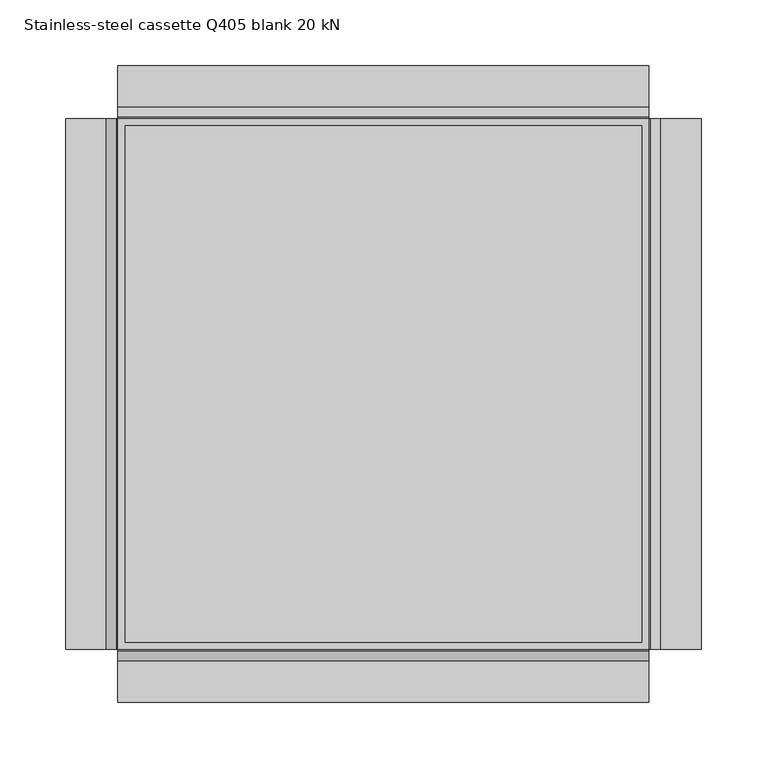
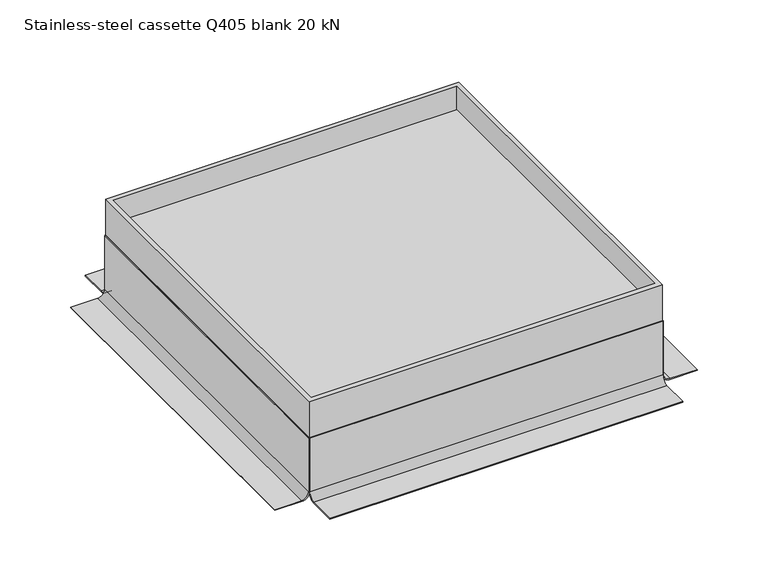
"""IFC4 building model written with IfcOpenShell, lengths in millimetres: proxy geometry, Electrical_Installation_Hager_VE-EE_EKSQ405BL-Heavy-duty-cassette-Q405-blank : Stainless-steel cassette Q405 blank 20 kN."""

from ifc_helpers import new_model, si_unit, point, frame, frame_2d, origin, place, context, project, spatial, polyline, circle_curve, trimmed, segment, composite_curve, outline, extrude, source, transform, mapped, element, save


def stainless_steel_cassette_q405_blank_20_kn_5d11f7c2(model_context):
    return source(origin(), model_context, "Body", "SweptSolid", [
        extrude(outline(polyline([(202.5, -202.5), (-202.5, -202.5), (-202.5, 202.5), (202.5, 202.5), (202.5, -202.5)]), holes=[polyline([(-197.0, 197.0), (-197.0, -197.0), (197.0, -197.0), (197.0, 197.0), (-197.0, 197.0)])]), frame((0.0, 0.0, -90.0), z_axis=(0.0, 0.0, 1.0), x_axis=(1.0, 0.0, 0.0)), (0.0, 0.0, 1.0), 48.0),
        extrude(outline(composite_curve([segment(polyline([(-42.0, -202.5), (-42.0, -203.5), (-107.0, -203.5)]), True, "CONTINUOUS"), segment(trimmed(circle_curve(frame_2d((-107.0, -211.5)), 8.0), [point((-107.0, -203.5))], [point((-115.0, -211.5))], True, "CARTESIAN"), True, "CONTINUOUS"), segment(polyline([(-115.0, -211.5), (-115.0, -242.5), (-116.0, -242.5), (-116.0, -210.5)]), True, "CONTINUOUS"), segment(trimmed(circle_curve(frame_2d((-108.0, -210.5)), 8.0), [point((-116.0, -210.5))], [point((-108.0, -202.5))], False, "CARTESIAN"), True, "CONTINUOUS"), segment(polyline([(-108.0, -202.5), (-42.0, -202.5)]), True, "CONTINUOUS")], self_intersect=False)), frame((0.0, -202.5, 0.0), z_axis=(0.0, 1.0, 0.0), x_axis=(0.0, 0.0, 1.0)), (0.0, 0.0, 1.0), 405.0),
        extrude(outline(composite_curve([segment(polyline([(-42.0, 202.5), (-108.0, 202.5)]), True, "CONTINUOUS"), segment(trimmed(circle_curve(frame_2d((-108.0, 210.5)), 8.0), [point((-108.0, 202.5))], [point((-116.0, 210.5))], False, "CARTESIAN"), True, "CONTINUOUS"), segment(polyline([(-116.0, 210.5), (-116.0, 242.5), (-115.0, 242.5), (-115.0, 211.5)]), True, "CONTINUOUS"), segment(trimmed(circle_curve(frame_2d((-107.0, 211.5)), 8.0), [point((-115.0, 211.5))], [point((-107.0, 203.5))], True, "CARTESIAN"), True, "CONTINUOUS"), segment(polyline([(-107.0, 203.5), (-42.0, 203.5), (-42.0, 202.5)]), True, "CONTINUOUS")], self_intersect=False)), frame((0.0, -202.5, 0.0), z_axis=(0.0, 1.0, 0.0), x_axis=(0.0, 0.0, 1.0)), (0.0, 0.0, 1.0), 405.0),
        extrude(outline(composite_curve([segment(polyline([(203.5, -42.0), (203.5, -107.0189708)]), True, "CONTINUOUS"), segment(trimmed(circle_curve(frame_2d((211.4810292, -107.0189708)), 7.9810292), [point((203.5, -107.0189708))], [point((211.4810292, -115.0))], True, "CARTESIAN"), True, "CONTINUOUS"), segment(polyline([(211.4810292, -115.0), (242.9, -115.0), (242.9, -116.0), (210.5, -116.0)]), True, "CONTINUOUS"), segment(trimmed(circle_curve(frame_2d((210.5, -108.0)), 8.0), [point((210.5, -116.0))], [point((202.5, -108.0))], False, "CARTESIAN"), True, "CONTINUOUS"), segment(polyline([(202.5, -108.0), (202.5, -42.0), (203.5, -42.0)]), True, "CONTINUOUS")], self_intersect=False)), frame((-202.5, 0.0, 0.0), z_axis=(1.0, 0.0, 0.0), x_axis=(0.0, 1.0, 0.0)), (0.0, 0.0, 1.0), 405.0),
        extrude(outline(composite_curve([segment(polyline([(-203.5, -42.0), (-202.5, -42.0), (-202.5, -108.0)]), True, "CONTINUOUS"), segment(trimmed(circle_curve(frame_2d((-210.5, -108.0)), 8.0), [point((-202.5, -108.0))], [point((-210.5, -116.0))], False, "CARTESIAN"), True, "CONTINUOUS"), segment(polyline([(-210.5, -116.0), (-242.9, -116.0), (-242.9, -115.0), (-211.5, -115.0)]), True, "CONTINUOUS"), segment(trimmed(circle_curve(frame_2d((-211.5, -107.0)), 8.0), [point((-211.5, -115.0))], [point((-203.5, -107.0))], True, "CARTESIAN"), True, "CONTINUOUS"), segment(polyline([(-203.5, -107.0), (-203.5, -42.0)]), True, "CONTINUOUS")], self_intersect=False)), frame((-202.5, 0.0, 0.0), z_axis=(1.0, 0.0, 0.0), x_axis=(0.0, 1.0, 0.0)), (0.0, 0.0, 1.0), 405.0),
        extrude(outline(composite_curve([segment(trimmed(circle_curve(frame_2d((-162.4091469, -182.4951203)), 7.0), [point((-169.4091469, -182.4951203))], [point((-155.4091469, -182.4951203))], False, "CARTESIAN"), True, "CONTINUOUS"), segment(trimmed(circle_curve(frame_2d((-162.4091469, -182.4951203)), 7.0), [point((-155.4091469, -182.4951203))], [point((-169.4091469, -182.4951203))], False, "CARTESIAN"), True, "CONTINUOUS")], self_intersect=False)), frame((0.0, 0.0, -116.0), z_axis=(0.0, 0.0, 1.0), x_axis=(1.0, 0.0, 0.0)), (0.0, 0.0, 1.0), 26.0),
        extrude(outline(composite_curve([segment(trimmed(circle_curve(frame_2d((182.5127006, -162.9445419)), 7.0), [point((175.5127006, -162.9445419))], [point((189.5127006, -162.9445419))], False, "CARTESIAN"), True, "CONTINUOUS"), segment(trimmed(circle_curve(frame_2d((182.5127006, -162.9445419)), 7.0), [point((189.5127006, -162.9445419))], [point((175.5127006, -162.9445419))], False, "CARTESIAN"), True, "CONTINUOUS")], self_intersect=False)), frame((0.0, 0.0, -116.0), z_axis=(0.0, 0.0, 1.0), x_axis=(1.0, 0.0, 0.0)), (0.0, 0.0, 1.0), 26.0),
        extrude(outline(composite_curve([segment(trimmed(circle_curve(frame_2d((162.4738351, 182.6924506)), 7.0), [point((155.4738351, 182.6924506))], [point((169.4738351, 182.6924506))], False, "CARTESIAN"), True, "CONTINUOUS"), segment(trimmed(circle_curve(frame_2d((162.4738351, 182.6924506)), 7.0), [point((169.4738351, 182.6924506))], [point((155.4738351, 182.6924506))], False, "CARTESIAN"), True, "CONTINUOUS")], self_intersect=False)), frame((0.0, 0.0, -116.0), z_axis=(0.0, 0.0, 1.0), x_axis=(1.0, 0.0, 0.0)), (0.0, 0.0, 1.0), 26.0),
        extrude(outline(composite_curve([segment(trimmed(circle_curve(frame_2d((-182.4092584, 163.1865669)), 7.0), [point((-189.4092584, 163.1865669))], [point((-175.4092584, 163.1865669))], False, "CARTESIAN"), True, "CONTINUOUS"), segment(trimmed(circle_curve(frame_2d((-182.4092584, 163.1865669)), 7.0), [point((-175.4092584, 163.1865669))], [point((-189.4092584, 163.1865669))], False, "CARTESIAN"), True, "CONTINUOUS")], self_intersect=False)), frame((0.0, 0.0, -116.0), z_axis=(0.0, 0.0, 1.0), x_axis=(1.0, 0.0, 0.0)), (0.0, 0.0, 1.0), 26.0),
        extrude(outline(polyline([(4.7, 116.5), (95.8639966, 116.5), (116.5, 99.5470649), (116.5, -98.6394213), (95.2984665, -116.5), (-96.367755, -116.5), (-116.5, -98.6801256), (-116.5, 101.043544), (-96.1272863, 116.5), (4.7, 116.5)]), holes=[polyline([(-113.5, 99.8642535), (-113.5, -97.634929), (-94.9180331, -113.5), (93.9123304, -113.5), (113.5, -97.5355815), (113.5, 98.4312235), (94.4906502, 113.5), (4.7, 113.5), (-94.8203352, 113.5), (-113.5, 99.8642535)])]), frame((0.0, 0.0, -44.0), z_axis=(0.0, 0.0, 1.0), x_axis=(1.0, 0.0, 0.0)), (0.0, 0.0, 1.0), 2.0),
        extrude(outline(polyline([(197.0, 197.0), (197.0, -197.0), (-197.0, -197.0), (-197.0, 197.0), (197.0, 197.0)])), frame((0.0, 0.0, -42.0), z_axis=(0.0, 0.0, 1.0), x_axis=(1.0, 0.0, 0.0)), (0.0, 0.0, 1.0), 16.0),
        extrude(outline(composite_curve([segment(trimmed(circle_curve(frame_2d((-183.2860156, 162.7925845)), 10.0), [point((-193.2860156, 162.7925845))], [point((-173.2860156, 162.7925845))], False, "CARTESIAN"), True, "CONTINUOUS"), segment(trimmed(circle_curve(frame_2d((-183.2860156, 162.7925845)), 10.0), [point((-173.2860156, 162.7925845))], [point((-193.2860156, 162.7925845))], False, "CARTESIAN"), True, "CONTINUOUS")], self_intersect=False)), frame((0.0, 0.0, -90.0), z_axis=(0.0, 0.0, 1.0), x_axis=(1.0, 0.0, 0.0)), (0.0, 0.0, 1.0), 48.0),
        extrude(outline(composite_curve([segment(trimmed(circle_curve(frame_2d((161.392048, 182.4923672)), 10.0), [point((151.392048, 182.4923672))], [point((171.392048, 182.4923672))], False, "CARTESIAN"), True, "CONTINUOUS"), segment(trimmed(circle_curve(frame_2d((161.392048, 182.4923672)), 10.0), [point((171.392048, 182.4923672))], [point((151.392048, 182.4923672))], False, "CARTESIAN"), True, "CONTINUOUS")], self_intersect=False)), frame((0.0, 0.0, -90.0), z_axis=(0.0, 0.0, 1.0), x_axis=(1.0, 0.0, 0.0)), (0.0, 0.0, 1.0), 48.0),
        extrude(outline(composite_curve([segment(trimmed(circle_curve(frame_2d((182.5, -162.7518758)), 10.0), [point((172.5, -162.7518758))], [point((192.5, -162.7518758))], False, "CARTESIAN"), True, "CONTINUOUS"), segment(trimmed(circle_curve(frame_2d((182.5, -162.7518758)), 10.0), [point((192.5, -162.7518758))], [point((172.5, -162.7518758))], False, "CARTESIAN"), True, "CONTINUOUS")], self_intersect=False)), frame((0.0, 0.0, -90.0), z_axis=(0.0, 0.0, 1.0), x_axis=(1.0, 0.0, 0.0)), (0.0, 0.0, 1.0), 48.0),
        extrude(outline(composite_curve([segment(trimmed(circle_curve(frame_2d((-162.3614991, -181.9010172)), 10.0), [point((-172.3614991, -181.9010172))], [point((-152.3614991, -181.9010172))], False, "CARTESIAN"), True, "CONTINUOUS"), segment(trimmed(circle_curve(frame_2d((-162.3614991, -181.9010172)), 10.0), [point((-152.3614991, -181.9010172))], [point((-172.3614991, -181.9010172))], False, "CARTESIAN"), True, "CONTINUOUS")], self_intersect=False)), frame((0.0, 0.0, -90.0), z_axis=(0.0, 0.0, 1.0), x_axis=(1.0, 0.0, 0.0)), (0.0, 0.0, 1.0), 48.0),
        extrude(outline(polyline([(202.5, 202.5), (202.5, -202.5), (-202.5, -202.5), (-202.5, 202.5), (202.5, 202.5)]), holes=[polyline([(197.0, 197.0), (-197.0, 197.0), (-197.0, -197.0), (197.0, -197.0), (197.0, 197.0)])]), frame((0.0, 0.0, -42.0), z_axis=(0.0, 0.0, 1.0), x_axis=(1.0, 0.0, 0.0)), (0.0, 0.0, 1.0), 44.0),
    ])


if __name__ == "__main__":
    model = new_model("IFC4")
    model_context = context("Model", 3, world=origin())
    ifc_project = project(units=[si_unit("LENGTHUNIT", "METRE", prefix="MILLI")], contexts=[model_context])
    site = spatial("IfcSite", under=ifc_project)
    building = spatial("IfcBuilding", under=site)
    placement = place(None, origin())
    stainless_steel_cassette_q405_blank_20_kn_shape = stainless_steel_cassette_q405_blank_20_kn_5d11f7c2(model_context)
    element("IfcBuildingElementProxy", 1, Name="Electrical_Installation_Hager_VE-EE_EKSQ405BL-Heavy-duty-cassette-Q405-blank : Stainless-steel cassette Q405 blank 20 kN", ObjectType="Electrical_Installation_Hager_VE-EE_EKSQ405BL-Heavy-duty-cassette-Q405-blank : Stainless-steel cassette Q405 blank 20 kN", at=placement, inside=building, context=model_context, shape_type="MappedRepresentation", body=[
        mapped(stainless_steel_cassette_q405_blank_20_kn_shape, transform((0.0, 0.0, 0.0), x_axis=(1.0, 0.0, 0.0), y_axis=(0.0, 1.0, 0.0), z_axis=(0.0, 0.0, 1.0))),
    ])
    save(model, "model.ifc")
